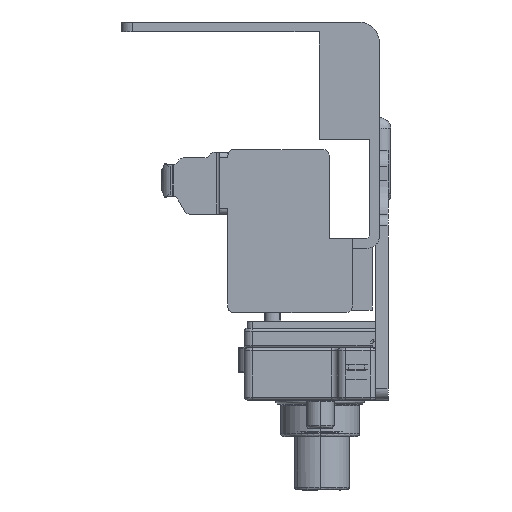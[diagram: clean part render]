
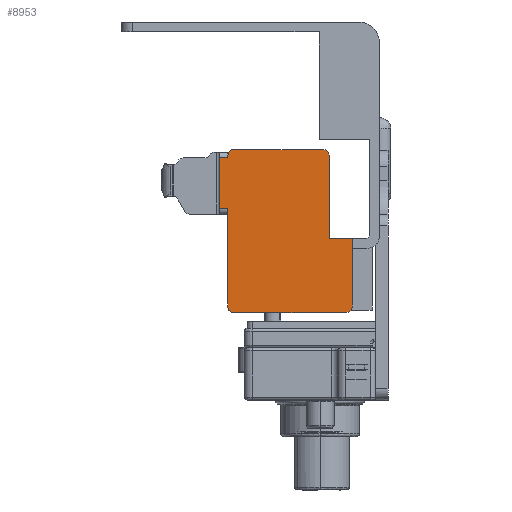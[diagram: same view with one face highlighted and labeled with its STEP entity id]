
A CAD part, left-side view. The second image highlights one B-rep face of the part: STEP entity #8953.
In plain terms, the highlighted planar face has unit normal (-1, 0, 0).
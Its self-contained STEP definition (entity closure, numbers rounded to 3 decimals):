
#278 = DIRECTION ( 'NONE',  ( 0., 0., -1. ) ) ;
#852 = ORIENTED_EDGE ( 'NONE', *, *, #2329, .F. ) ;
#862 = ORIENTED_EDGE ( 'NONE', *, *, #9211, .F. ) ;
#1160 = VERTEX_POINT ( 'NONE', #15388 ) ;
#1305 = ORIENTED_EDGE ( 'NONE', *, *, #5973, .F. ) ;
#1319 = EDGE_CURVE ( 'NONE', #8081, #16885, #5633, .T. ) ;
#1559 = CARTESIAN_POINT ( 'NONE',  ( -352.77, 4.9, -10.692 ) ) ;
#2259 = CARTESIAN_POINT ( 'NONE',  ( -352.77, 27., -10.43 ) ) ;
#2325 = ORIENTED_EDGE ( 'NONE', *, *, #11654, .F. ) ;
#2329 = EDGE_CURVE ( 'NONE', #2574, #15170, #16140, .T. ) ;
#2574 = VERTEX_POINT ( 'NONE', #14559 ) ;
#2614 = AXIS2_PLACEMENT_3D ( 'NONE', #12489, #3667, #13968 ) ;
#3106 = CARTESIAN_POINT ( 'NONE',  ( -352.77, 26., -10.43 ) ) ;
#3126 = DIRECTION ( 'NONE',  ( 0., 0., -1. ) ) ;
#3136 = FACE_OUTER_BOUND ( 'NONE', #16004, .T. ) ;
#3142 = ORIENTED_EDGE ( 'NONE', *, *, #16201, .F. ) ;
#3272 = VECTOR ( 'NONE', #5421, 1000. ) ;
#3667 = DIRECTION ( 'NONE',  ( 1., 0., 0. ) ) ;
#3801 = DIRECTION ( 'NONE',  ( 0., 1., 0. ) ) ;
#3983 = CARTESIAN_POINT ( 'NONE',  ( -352.77, 9., 1.77 ) ) ;
#4127 = CARTESIAN_POINT ( 'NONE',  ( -352.77, 10., 17.6 ) ) ;
#4137 = VERTEX_POINT ( 'NONE', #5047 ) ;
#4176 = VERTEX_POINT ( 'NONE', #2259 ) ;
#4256 = EDGE_CURVE ( 'NONE', #15743, #8081, #11838, .T. ) ;
#4286 = LINE ( 'NONE', #18713, #6813 ) ;
#4441 = VECTOR ( 'NONE', #16932, 1000. ) ;
#4481 = VECTOR ( 'NONE', #3801, 1000. ) ;
#4510 = VERTEX_POINT ( 'NONE', #9132 ) ;
#4589 = DIRECTION ( 'NONE',  ( 0., 0., -1. ) ) ;
#4816 = ORIENTED_EDGE ( 'NONE', *, *, #14485, .F. ) ;
#4933 = CARTESIAN_POINT ( 'NONE',  ( -352.77, 28.47, 1.77 ) ) ;
#4987 = ORIENTED_EDGE ( 'NONE', *, *, #7502, .F. ) ;
#4993 = DIRECTION ( 'NONE',  ( 0., -1., 0. ) ) ;
#5020 = EDGE_CURVE ( 'NONE', #13104, #4176, #12500, .T. ) ;
#5047 = CARTESIAN_POINT ( 'NONE',  ( -352.77, 26., 17.6 ) ) ;
#5159 = VECTOR ( 'NONE', #12066, 1000. ) ;
#5421 = DIRECTION ( 'NONE',  ( 0., 1., 0. ) ) ;
#5618 = CARTESIAN_POINT ( 'NONE',  ( -352.77, 9.738, 17.6 ) ) ;
#5633 = LINE ( 'NONE', #11979, #5159 ) ;
#5812 = CARTESIAN_POINT ( 'NONE',  ( -352.77, 10., 17.6 ) ) ;
#5973 = EDGE_CURVE ( 'NONE', #4510, #13104, #10185, .T. ) ;
#6020 = CARTESIAN_POINT ( 'NONE',  ( -352.77, 5.378, -11.322 ) ) ;
#6813 = VECTOR ( 'NONE', #7044, 1000. ) ;
#6911 = CARTESIAN_POINT ( 'NONE',  ( -352.77, 28.47, 7.1 ) ) ;
#7044 = DIRECTION ( 'NONE',  ( 0., -1., 0. ) ) ;
#7094 = CARTESIAN_POINT ( 'NONE',  ( -352.77, 9.108, 17.122 ) ) ;
#7341 = ORIENTED_EDGE ( 'NONE', *, *, #13518, .F. ) ;
#7502 = EDGE_CURVE ( 'NONE', #16726, #18421, #12839, .T. ) ;
#7514 = CARTESIAN_POINT ( 'NONE',  ( -352.77, 5.9, -11.43 ) ) ;
#7533 = DIRECTION ( 'NONE',  ( 1., 0., 0. ) ) ;
#7583 = DIRECTION ( 'NONE',  ( 0., 0., 1. ) ) ;
#7665 = VERTEX_POINT ( 'NONE', #9831 ) ;
#7668 = VECTOR ( 'NONE', #18479, 1000. ) ;
#8081 = VERTEX_POINT ( 'NONE', #8820 ) ;
#8551 = CARTESIAN_POINT ( 'NONE',  ( -352.77, 9., 16.6 ) ) ;
#8820 = CARTESIAN_POINT ( 'NONE',  ( -352.77, 28.47, 7.1 ) ) ;
#8953 = ADVANCED_FACE ( 'NONE', ( #3136 ), #11940, .F. ) ;
#8980 = CARTESIAN_POINT ( 'NONE',  ( -352.77, 28.47, 17.1 ) ) ;
#9132 = CARTESIAN_POINT ( 'NONE',  ( -352.77, 5.9, -11.43 ) ) ;
#9145 = B_SPLINE_CURVE_WITH_KNOTS ( 'NONE', 3,
 ( #11845, #1559, #14810, #6020, #16252, #7514 ),
 .UNSPECIFIED., .F., .F.,
 ( 4, 2, 4 ),
 ( 0., 0.5, 1. ),
 .UNSPECIFIED. ) ;
#9211 = EDGE_CURVE ( 'NONE', #16885, #7665, #4286, .T. ) ;
#9293 = DIRECTION ( 'NONE',  ( 0., 0., 1. ) ) ;
#9394 = EDGE_CURVE ( 'NONE', #15170, #4510, #9145, .T. ) ;
#9546 = ORIENTED_EDGE ( 'NONE', *, *, #14721, .F. ) ;
#9631 = CIRCLE ( 'NONE', #2614, 1. ) ;
#9776 = LINE ( 'NONE', #13587, #18012 ) ;
#9831 = CARTESIAN_POINT ( 'NONE',  ( -352.77, 27., 16.1 ) ) ;
#10114 = ORIENTED_EDGE ( 'NONE', *, *, #9394, .F. ) ;
#10185 = LINE ( 'NONE', #15669, #3272 ) ;
#10833 = ORIENTED_EDGE ( 'NONE', *, *, #18828, .F. ) ;
#10899 = LINE ( 'NONE', #4933, #18662 ) ;
#11420 = LINE ( 'NONE', #18046, #13965 ) ;
#11568 = CARTESIAN_POINT ( 'NONE',  ( -352.77, 28.47, 16.1 ) ) ;
#11654 = EDGE_CURVE ( 'NONE', #1160, #4137, #9631, .T. ) ;
#11838 = LINE ( 'NONE', #6911, #4481 ) ;
#11845 = CARTESIAN_POINT ( 'NONE',  ( -352.77, 4.9, -10.43 ) ) ;
#11940 = PLANE ( 'NONE',  #16893 ) ;
#11979 = CARTESIAN_POINT ( 'NONE',  ( -352.77, 28.47, 17.1 ) ) ;
#12066 = DIRECTION ( 'NONE',  ( 0., 0., 1. ) ) ;
#12298 = CARTESIAN_POINT ( 'NONE',  ( -352.77, 9., 17.1 ) ) ;
#12374 = VECTOR ( 'NONE', #278, 1000. ) ;
#12489 = CARTESIAN_POINT ( 'NONE',  ( -352.77, 26., 16.6 ) ) ;
#12500 = CIRCLE ( 'NONE', #18764, 1. ) ;
#12565 = VERTEX_POINT ( 'NONE', #5812 ) ;
#12839 = LINE ( 'NONE', #12298, #12374 ) ;
#13104 = VERTEX_POINT ( 'NONE', #17706 ) ;
#13391 = DIRECTION ( 'NONE',  ( 1., 0., 0. ) ) ;
#13518 = EDGE_CURVE ( 'NONE', #7665, #1160, #11420, .T. ) ;
#13587 = CARTESIAN_POINT ( 'NONE',  ( -352.77, 27., 10.57 ) ) ;
#13711 = CARTESIAN_POINT ( 'NONE',  ( -352.77, 4.9, -10.43 ) ) ;
#13965 = VECTOR ( 'NONE', #9293, 1000. ) ;
#13968 = DIRECTION ( 'NONE',  ( 0., 0., 1. ) ) ;
#14485 = EDGE_CURVE ( 'NONE', #4176, #15743, #9776, .T. ) ;
#14559 = CARTESIAN_POINT ( 'NONE',  ( -352.77, 4.9, 1.77 ) ) ;
#14721 = EDGE_CURVE ( 'NONE', #12565, #16726, #17084, .T. ) ;
#14810 = CARTESIAN_POINT ( 'NONE',  ( -352.77, 5.008, -10.952 ) ) ;
#15170 = VERTEX_POINT ( 'NONE', #13711 ) ;
#15212 = ORIENTED_EDGE ( 'NONE', *, *, #5020, .F. ) ;
#15388 = CARTESIAN_POINT ( 'NONE',  ( -352.77, 27., 16.6 ) ) ;
#15440 = LINE ( 'NONE', #16967, #7668 ) ;
#15522 = CARTESIAN_POINT ( 'NONE',  ( -352.77, 27., 7.1 ) ) ;
#15531 = CARTESIAN_POINT ( 'NONE',  ( -352.77, 4.9, 17.1 ) ) ;
#15603 = CARTESIAN_POINT ( 'NONE',  ( -352.77, 9., 16.6 ) ) ;
#15669 = CARTESIAN_POINT ( 'NONE',  ( -352.77, 28.47, -11.43 ) ) ;
#15743 = VERTEX_POINT ( 'NONE', #15522 ) ;
#15860 = CARTESIAN_POINT ( 'NONE',  ( -352.77, 9.478, 17.492 ) ) ;
#16004 = EDGE_LOOP ( 'NONE', ( #4987, #9546, #10833, #2325, #7341, #862, #18323, #18829, #4816, #15212, #1305, #10114, #852, #3142 ) ) ;
#16140 = LINE ( 'NONE', #15531, #4441 ) ;
#16201 = EDGE_CURVE ( 'NONE', #18421, #2574, #10899, .T. ) ;
#16252 = CARTESIAN_POINT ( 'NONE',  ( -352.77, 5.638, -11.43 ) ) ;
#16726 = VERTEX_POINT ( 'NONE', #15603 ) ;
#16885 = VERTEX_POINT ( 'NONE', #11568 ) ;
#16893 = AXIS2_PLACEMENT_3D ( 'NONE', #8980, #7533, #3126 ) ;
#16932 = DIRECTION ( 'NONE',  ( 0., 0., -1. ) ) ;
#16967 = CARTESIAN_POINT ( 'NONE',  ( -352.77, 28.47, 17.6 ) ) ;
#17084 = B_SPLINE_CURVE_WITH_KNOTS ( 'NONE', 3,
 ( #4127, #5618, #15860, #7094, #17326, #8551 ),
 .UNSPECIFIED., .F., .F.,
 ( 4, 2, 4 ),
 ( 0., 0.5, 1. ),
 .UNSPECIFIED. ) ;
#17326 = CARTESIAN_POINT ( 'NONE',  ( -352.77, 9., 16.862 ) ) ;
#17706 = CARTESIAN_POINT ( 'NONE',  ( -352.77, 26., -11.43 ) ) ;
#18012 = VECTOR ( 'NONE', #7583, 1000. ) ;
#18046 = CARTESIAN_POINT ( 'NONE',  ( -352.77, 27., 17.1 ) ) ;
#18323 = ORIENTED_EDGE ( 'NONE', *, *, #1319, .F. ) ;
#18421 = VERTEX_POINT ( 'NONE', #3983 ) ;
#18479 = DIRECTION ( 'NONE',  ( 0., -1., 0. ) ) ;
#18662 = VECTOR ( 'NONE', #4993, 1000. ) ;
#18713 = CARTESIAN_POINT ( 'NONE',  ( -352.77, 28.47, 16.1 ) ) ;
#18764 = AXIS2_PLACEMENT_3D ( 'NONE', #3106, #13391, #4589 ) ;
#18828 = EDGE_CURVE ( 'NONE', #4137, #12565, #15440, .T. ) ;
#18829 = ORIENTED_EDGE ( 'NONE', *, *, #4256, .F. ) ;
